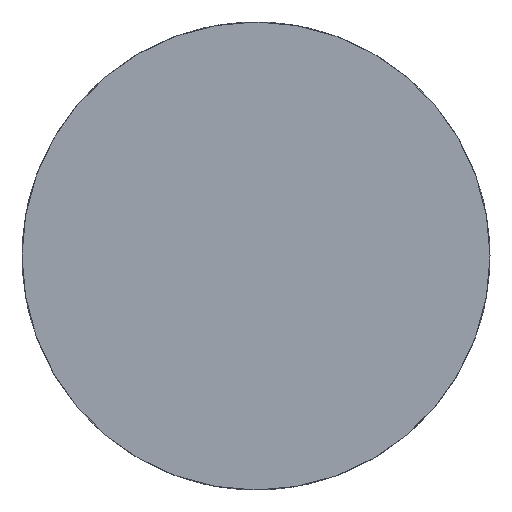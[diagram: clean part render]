
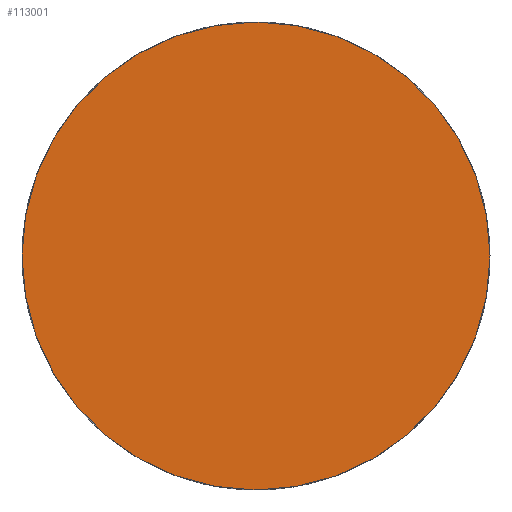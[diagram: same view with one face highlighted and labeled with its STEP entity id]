
A CAD part, top view. The second image highlights one B-rep face of the part: STEP entity #113001.
In plain terms, the highlighted free-form (B-spline) face has degree [3, 3] with [5, 5] control points.
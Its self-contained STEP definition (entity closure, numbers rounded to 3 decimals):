
#83031=CARTESIAN_POINT('',(0.006,-37.,36.9));
#83032=VERTEX_POINT('',#83031);
#83561=CARTESIAN_POINT('',(-0.006,37.,36.9));
#83562=VERTEX_POINT('',#83561);
#83576=CARTESIAN_POINT('',(0.001,0.,36.9));
#83581=DIRECTION('',(0.,0.,1.));
#83586=DIRECTION('',(0.,-1.,0.));
#83591=AXIS2_PLACEMENT_3D('',#83576,#83581,#83586);
#83596=CIRCLE('',#83591,37.);
#83601=EDGE_CURVE('',#83032,#83562,#83596,.T.);
#86451=CARTESIAN_POINT('',(-0.002,0.,36.9));
#86456=DIRECTION('',(0.,0.,-1.));
#86461=DIRECTION('',(0.,-1.,0.));
#86466=AXIS2_PLACEMENT_3D('',#86451,#86456,#86461);
#86471=CIRCLE('',#86466,37.);
#86476=EDGE_CURVE('',#83032,#83562,#86471,.T.);
#112851=CARTESIAN_POINT('',(-37.001,-37.001,36.9));
#112856=CARTESIAN_POINT('',(-37.001,-24.667,36.9));
#112861=CARTESIAN_POINT('',(-37.001,0.,36.9));
#112866=CARTESIAN_POINT('',(-37.001,24.667,36.9));
#112871=CARTESIAN_POINT('',(-37.001,37.001,36.9));
#112876=CARTESIAN_POINT('',(-24.667,-37.001,36.9));
#112881=CARTESIAN_POINT('',(-24.667,-24.667,36.9));
#112886=CARTESIAN_POINT('',(-24.667,0.,36.9));
#112891=CARTESIAN_POINT('',(-24.667,24.667,36.9));
#112896=CARTESIAN_POINT('',(-24.667,37.001,36.9));
#112901=CARTESIAN_POINT('',(0.,-37.001,36.9));
#112906=CARTESIAN_POINT('',(0.,-24.667,36.9));
#112911=CARTESIAN_POINT('',(0.,0.,36.9));
#112916=CARTESIAN_POINT('',(0.,24.667,36.9));
#112921=CARTESIAN_POINT('',(0.,37.001,36.9));
#112926=CARTESIAN_POINT('',(24.667,-37.001,36.9));
#112931=CARTESIAN_POINT('',(24.667,-24.667,36.9));
#112936=CARTESIAN_POINT('',(24.667,0.,36.9));
#112941=CARTESIAN_POINT('',(24.667,24.667,36.9));
#112946=CARTESIAN_POINT('',(24.667,37.001,36.9));
#112951=CARTESIAN_POINT('',(37.001,-37.001,36.9));
#112956=CARTESIAN_POINT('',(37.001,-24.667,36.9));
#112961=CARTESIAN_POINT('',(37.001,0.,36.9));
#112966=CARTESIAN_POINT('',(37.001,24.667,36.9));
#112971=CARTESIAN_POINT('',(37.001,37.001,36.9));
#112976=B_SPLINE_SURFACE_WITH_KNOTS('',3,3,((#112851,#112856,#112861,#112866,#112871),(#112876,#112881,#112886,#112891,#112896),(#112901,#112906,#112911,#112916,#112921),(#112926,#112931,#112936,#112941,#112946),(#112951,#112956,#112961,#112966,#112971)),.UNSPECIFIED.,.F.,.F.,.U.,(4,1,4),(4,1,4),(0.006,0.5,0.994),(0.006,0.5,0.994),.UNSPECIFIED.);
#112981=ORIENTED_EDGE('',*,*,#86476,.F.);
#112986=ORIENTED_EDGE('',*,*,#83601,.T.);
#112991=EDGE_LOOP('',(#112981,#112986));
#112996=FACE_OUTER_BOUND('',#112991,.T.);
#113001=ADVANCED_FACE('NONE',(#112996),#112976,.T.);
